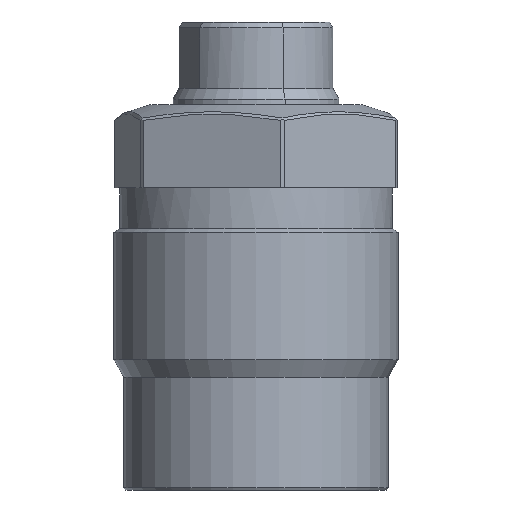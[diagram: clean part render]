
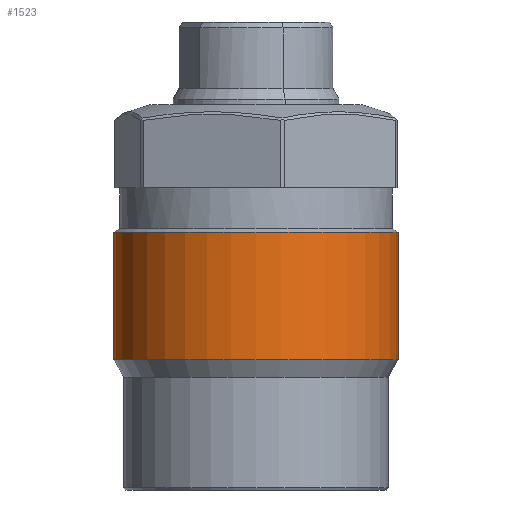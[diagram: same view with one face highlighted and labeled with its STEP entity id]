
A CAD part, front view. The second image highlights one B-rep face of the part: STEP entity #1523.
In plain terms, the highlighted cylindrical face has radius 12 mm (diameter 24 mm), a partial arc.
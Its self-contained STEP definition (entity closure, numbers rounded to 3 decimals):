
#14 = CARTESIAN_POINT ( 'NONE',  ( 0., 0., 25.5 ) ) ;
#95 = AXIS2_PLACEMENT_3D ( 'NONE', #1856, #661, #1103 ) ;
#109 = CIRCLE ( 'NONE', #2421, 12. ) ;
#156 = DIRECTION ( 'NONE',  ( 0., 0., -1. ) ) ;
#282 = EDGE_CURVE ( 'NONE', #840, #709, #109, .T. ) ;
#321 = DIRECTION ( 'NONE',  ( -1., 0., 0. ) ) ;
#327 = DIRECTION ( 'NONE',  ( 0., 0., -1. ) ) ;
#501 = CARTESIAN_POINT ( 'NONE',  ( 12., 0., 11. ) ) ;
#661 = DIRECTION ( 'NONE',  ( 0., 0., 1. ) ) ;
#709 = VERTEX_POINT ( 'NONE', #2452 ) ;
#840 = VERTEX_POINT ( 'NONE', #910 ) ;
#842 = CARTESIAN_POINT ( 'NONE',  ( 0., 0., 21.768 ) ) ;
#844 = CARTESIAN_POINT ( 'NONE',  ( -12., 0., 11. ) ) ;
#845 = ORIENTED_EDGE ( 'NONE', *, *, #282, .T. ) ;
#871 = EDGE_CURVE ( 'NONE', #709, #3283, #946, .T. ) ;
#899 = LINE ( 'NONE', #1920, #3319 ) ;
#910 = CARTESIAN_POINT ( 'NONE',  ( 12., 0., 21.768 ) ) ;
#944 = ORIENTED_EDGE ( 'NONE', *, *, #1608, .T. ) ;
#946 = LINE ( 'NONE', #1964, #2742 ) ;
#1103 = DIRECTION ( 'NONE',  ( -1., 0., 0. ) ) ;
#1280 = EDGE_CURVE ( 'NONE', #840, #2697, #899, .T. ) ;
#1523 = ADVANCED_FACE ( 'NONE', ( #2995 ), #2775, .T. ) ;
#1608 = EDGE_CURVE ( 'NONE', #3283, #2697, #2777, .T. ) ;
#1856 = CARTESIAN_POINT ( 'NONE',  ( 0., 0., 11. ) ) ;
#1920 = CARTESIAN_POINT ( 'NONE',  ( 12., 0., 25.5 ) ) ;
#1964 = CARTESIAN_POINT ( 'NONE',  ( -12., 0., 25.5 ) ) ;
#1971 = AXIS2_PLACEMENT_3D ( 'NONE', #14, #3073, #321 ) ;
#2333 = DIRECTION ( 'NONE',  ( -1., 0., 0. ) ) ;
#2366 = ORIENTED_EDGE ( 'NONE', *, *, #871, .T. ) ;
#2421 = AXIS2_PLACEMENT_3D ( 'NONE', #842, #327, #2333 ) ;
#2452 = CARTESIAN_POINT ( 'NONE',  ( -12., 0., 21.768 ) ) ;
#2697 = VERTEX_POINT ( 'NONE', #501 ) ;
#2742 = VECTOR ( 'NONE', #156, 1000. ) ;
#2775 = CYLINDRICAL_SURFACE ( 'NONE', #1971, 12. ) ;
#2777 = CIRCLE ( 'NONE', #95, 12. ) ;
#2949 = DIRECTION ( 'NONE',  ( 0., 0., -1. ) ) ;
#2995 = FACE_OUTER_BOUND ( 'NONE', #3327, .T. ) ;
#3073 = DIRECTION ( 'NONE',  ( 0., 0., -1. ) ) ;
#3076 = ORIENTED_EDGE ( 'NONE', *, *, #1280, .F. ) ;
#3283 = VERTEX_POINT ( 'NONE', #844 ) ;
#3319 = VECTOR ( 'NONE', #2949, 1000. ) ;
#3327 = EDGE_LOOP ( 'NONE', ( #3076, #845, #2366, #944 ) ) ;
